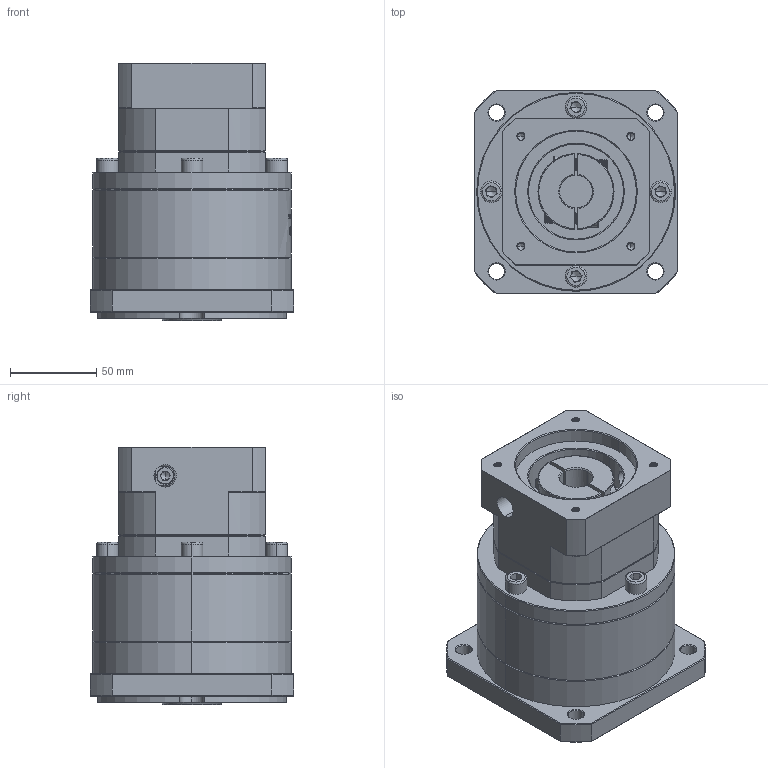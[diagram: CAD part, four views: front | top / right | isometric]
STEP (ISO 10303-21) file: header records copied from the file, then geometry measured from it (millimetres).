
FILE_DESCRIPTION (( 'STEP AP214' ), '1' );
FILE_NAME ('ZF120A-K25-L2-19-70-90-M5.step', '2023-03-07T15:03:44', ( '' ), ( 'Microsoft' ), 'SwSTEP 2.0', 'SolidWorks 2016', '' );
FILE_SCHEMA (( 'AUTOMOTIVE_DESIGN' ));
Length unit declared in the file: millimetre
Products named in the file (1): ZF120A-K25-L2-19-70-90-M5
Bounding box: 118 x 118 x 149 mm (x, y, z)
Volume: 1232994.6 mm3; surface area: 122909.6 mm2
Topology: 5 solids, 5 shells, 1850 faces, 4881 edges, 3120 vertices
Faces by surface type: plane 870, cylinder 363, bspline 327, cone 290
Entity records: 98870 total; most frequent: CARTESIAN_POINT 36450, ORIENTED_EDGE 9706, DIRECTION 7414, EDGE_CURVE 4853, VERTEX_POINT 3120, LINE 2678, VECTOR 2678, AXIS2_PLACEMENT_3D 2368
